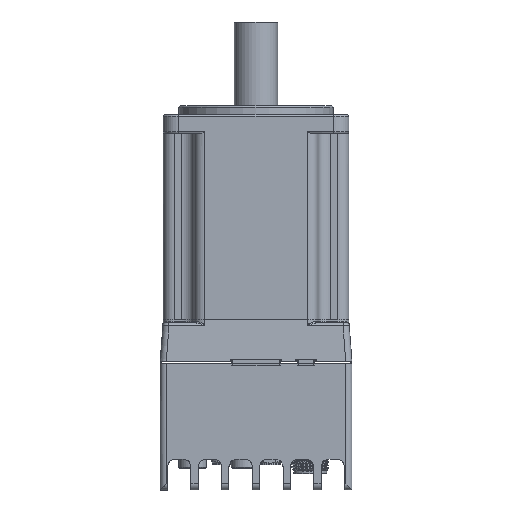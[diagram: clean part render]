
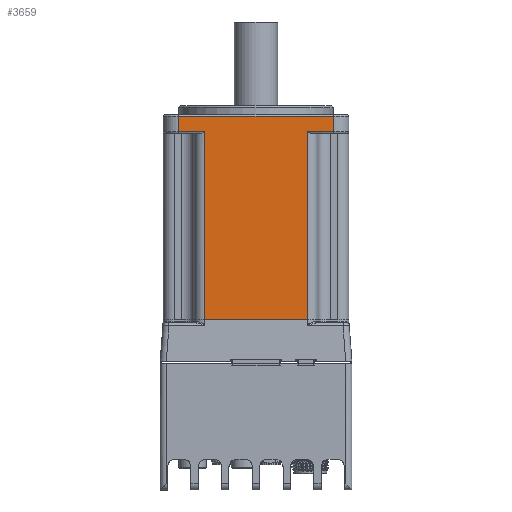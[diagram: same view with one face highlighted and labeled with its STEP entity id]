
A CAD part, front view. The second image highlights one B-rep face of the part: STEP entity #3659.
In plain terms, the highlighted planar face has unit normal (0, -1, 0).
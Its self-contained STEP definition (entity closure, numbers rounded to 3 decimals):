
#178 = CARTESIAN_POINT ( 'NONE',  ( 25., -29.978, 25.81 ) ) ;
#404 = VERTEX_POINT ( 'NONE', #29678 ) ;
#912 = LINE ( 'NONE', #10791, #62587 ) ;
#2938 = VECTOR ( 'NONE', #56113, 1000. ) ;
#3659 = ADVANCED_FACE ( 'NONE', ( #56688 ), #55994, .F. ) ;
#5115 = VERTEX_POINT ( 'NONE', #55824 ) ;
#5656 = DIRECTION ( 'NONE',  ( 0., 1., 0. ) ) ;
#7696 = DIRECTION ( 'NONE',  ( 0., 0., -1. ) ) ;
#8775 = EDGE_CURVE ( 'NONE', #12585, #5115, #58449, .T. ) ;
#9093 = ORIENTED_EDGE ( 'NONE', *, *, #29334, .T. ) ;
#9168 = AXIS2_PLACEMENT_3D ( 'NONE', #39439, #5656, #10716 ) ;
#9331 = EDGE_CURVE ( 'NONE', #45675, #23678, #65105, .T. ) ;
#10221 = ORIENTED_EDGE ( 'NONE', *, *, #9331, .T. ) ;
#10536 = CARTESIAN_POINT ( 'NONE',  ( 25., -29.978, 24.31 ) ) ;
#10716 = DIRECTION ( 'NONE',  ( 1., 0., 0. ) ) ;
#10791 = CARTESIAN_POINT ( 'NONE',  ( 16.5, -29.978, 24.31 ) ) ;
#11921 = LINE ( 'NONE', #57502, #26927 ) ;
#12585 = VERTEX_POINT ( 'NONE', #70098 ) ;
#13583 = VERTEX_POINT ( 'NONE', #178 ) ;
#13965 = ORIENTED_EDGE ( 'NONE', *, *, #51630, .T. ) ;
#14851 = VERTEX_POINT ( 'NONE', #42771 ) ;
#15094 = CARTESIAN_POINT ( 'NONE',  ( -16.5, -29.978, -34.99 ) ) ;
#15220 = DIRECTION ( 'NONE',  ( 1., 0., 0. ) ) ;
#16303 = LINE ( 'NONE', #60729, #48353 ) ;
#18666 = CARTESIAN_POINT ( 'NONE',  ( -25., -29.978, 24.31 ) ) ;
#19565 = DIRECTION ( 'NONE',  ( 1., 0., 0. ) ) ;
#22550 = LINE ( 'NONE', #38123, #2938 ) ;
#23678 = VERTEX_POINT ( 'NONE', #29396 ) ;
#24537 = ORIENTED_EDGE ( 'NONE', *, *, #49226, .T. ) ;
#26927 = VECTOR ( 'NONE', #56781, 1000. ) ;
#27422 = DIRECTION ( 'NONE',  ( 0., 0., 1. ) ) ;
#29334 = EDGE_CURVE ( 'NONE', #47669, #45675, #11921, .T. ) ;
#29396 = CARTESIAN_POINT ( 'NONE',  ( 16.5, -29.978, -34.99 ) ) ;
#29659 = VECTOR ( 'NONE', #36440, 1000. ) ;
#29678 = CARTESIAN_POINT ( 'NONE',  ( -25., -29.978, 25.81 ) ) ;
#35289 = EDGE_CURVE ( 'NONE', #23678, #14851, #912, .T. ) ;
#35339 = CARTESIAN_POINT ( 'NONE',  ( -25., -29.978, 30.81 ) ) ;
#36440 = DIRECTION ( 'NONE',  ( -1., 0., 0. ) ) ;
#38123 = CARTESIAN_POINT ( 'NONE',  ( -30., -29.978, 25.81 ) ) ;
#39439 = CARTESIAN_POINT ( 'NONE',  ( 30., -29.978, 24.31 ) ) ;
#40037 = EDGE_CURVE ( 'NONE', #5115, #404, #68997, .T. ) ;
#42771 = CARTESIAN_POINT ( 'NONE',  ( 16.5, -29.978, 25.81 ) ) ;
#45675 = VERTEX_POINT ( 'NONE', #15094 ) ;
#45733 = DIRECTION ( 'NONE',  ( 0., 0., 1. ) ) ;
#47669 = VERTEX_POINT ( 'NONE', #59764 ) ;
#48353 = VECTOR ( 'NONE', #15220, 1000. ) ;
#49226 = EDGE_CURVE ( 'NONE', #13583, #12585, #56157, .T. ) ;
#50431 = VECTOR ( 'NONE', #7696, 1000. ) ;
#51630 = EDGE_CURVE ( 'NONE', #404, #47669, #16303, .T. ) ;
#52736 = CARTESIAN_POINT ( 'NONE',  ( -16.5, -29.978, -34.99 ) ) ;
#53589 = VECTOR ( 'NONE', #19565, 1000. ) ;
#53832 = ORIENTED_EDGE ( 'NONE', *, *, #59716, .T. ) ;
#55477 = EDGE_LOOP ( 'NONE', ( #9093, #10221, #67201, #53832, #24537, #67947, #61085, #13965 ) ) ;
#55824 = CARTESIAN_POINT ( 'NONE',  ( -25., -29.978, 30.81 ) ) ;
#55994 = PLANE ( 'NONE',  #9168 ) ;
#56113 = DIRECTION ( 'NONE',  ( 1., 0., 0. ) ) ;
#56157 = LINE ( 'NONE', #10536, #66884 ) ;
#56688 = FACE_OUTER_BOUND ( 'NONE', #55477, .T. ) ;
#56781 = DIRECTION ( 'NONE',  ( 0., 0., -1. ) ) ;
#57502 = CARTESIAN_POINT ( 'NONE',  ( -16.5, -29.978, 24.31 ) ) ;
#58449 = LINE ( 'NONE', #35339, #29659 ) ;
#59716 = EDGE_CURVE ( 'NONE', #14851, #13583, #22550, .T. ) ;
#59764 = CARTESIAN_POINT ( 'NONE',  ( -16.5, -29.978, 25.81 ) ) ;
#60729 = CARTESIAN_POINT ( 'NONE',  ( -30., -29.978, 25.81 ) ) ;
#61085 = ORIENTED_EDGE ( 'NONE', *, *, #40037, .T. ) ;
#62587 = VECTOR ( 'NONE', #45733, 1000. ) ;
#65105 = LINE ( 'NONE', #52736, #53589 ) ;
#66884 = VECTOR ( 'NONE', #27422, 1000. ) ;
#67201 = ORIENTED_EDGE ( 'NONE', *, *, #35289, .T. ) ;
#67947 = ORIENTED_EDGE ( 'NONE', *, *, #8775, .T. ) ;
#68997 = LINE ( 'NONE', #18666, #50431 ) ;
#70098 = CARTESIAN_POINT ( 'NONE',  ( 25., -29.978, 30.81 ) ) ;
